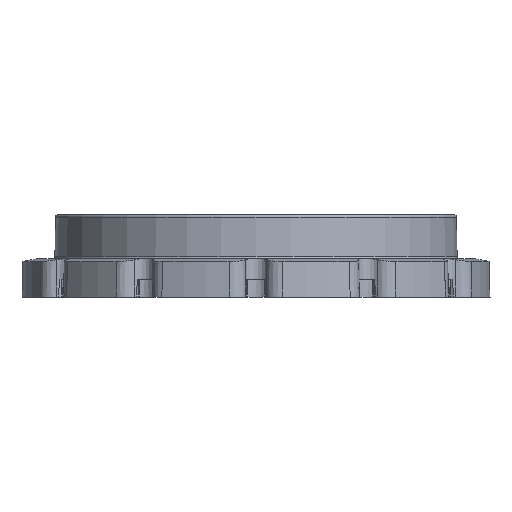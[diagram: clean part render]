
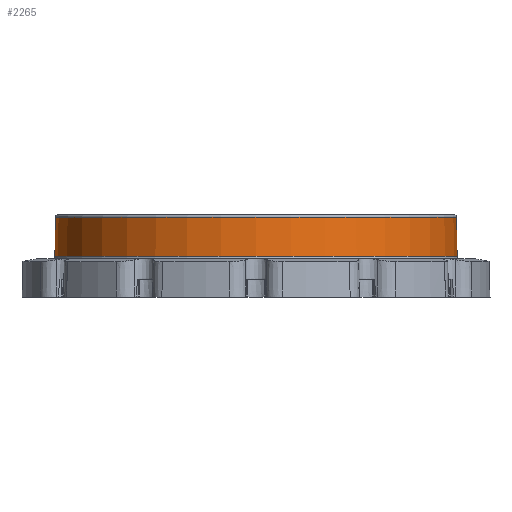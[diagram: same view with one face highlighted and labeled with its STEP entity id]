
A CAD part, front view. The second image highlights one B-rep face of the part: STEP entity #2265.
In plain terms, the highlighted conical face has half-angle 1 degrees and reference radius 23.5 mm.
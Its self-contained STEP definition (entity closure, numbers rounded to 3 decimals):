
#237 = CARTESIAN_POINT ( 'NONE',  ( -23.415, 0., 9.354 ) ) ;
#240 = CARTESIAN_POINT ( 'NONE',  ( 23.415, 0., 9.354 ) ) ;
#587 = CONICAL_SURFACE ( 'NONE', #762, 23.5, 0.017 ) ;
#665 = CIRCLE ( 'NONE', #714, 23.496 ) ;
#714 = AXIS2_PLACEMENT_3D ( 'NONE', #7366, #7367, #7368 ) ;
#762 = AXIS2_PLACEMENT_3D ( 'NONE', #7911, #7910, #7909 ) ;
#1668 = EDGE_LOOP ( 'NONE', ( #3064, #3066, #3065, #3067 ) ) ;
#2070 = VERTEX_POINT ( 'NONE', #240 ) ;
#2073 = VERTEX_POINT ( 'NONE', #237 ) ;
#2265 = ADVANCED_FACE ( 'NONE', ( #6691 ), #587, .T. ) ;
#2295 = EDGE_CURVE ( 'NONE', #15907, #15908, #665, .T. ) ;
#2520 = EDGE_CURVE ( 'NONE', #2073, #15907, #6909, .T. ) ;
#2521 = EDGE_CURVE ( 'NONE', #2070, #2073, #16345, .T. ) ;
#2522 = EDGE_CURVE ( 'NONE', #2070, #15908, #6910, .T. ) ;
#3064 = ORIENTED_EDGE ( 'NONE', *, *, #2521, .T. ) ;
#3065 = ORIENTED_EDGE ( 'NONE', *, *, #2295, .T. ) ;
#3066 = ORIENTED_EDGE ( 'NONE', *, *, #2520, .T. ) ;
#3067 = ORIENTED_EDGE ( 'NONE', *, *, #2522, .F. ) ;
#6691 = FACE_OUTER_BOUND ( 'NONE', #1668, .T. ) ;
#6909 = LINE ( 'NONE', #8136, #16302 ) ;
#6910 = LINE ( 'NONE', #8141, #16483 ) ;
#7366 = CARTESIAN_POINT ( 'NONE',  ( 0., 0., 4.746 ) ) ;
#7367 = DIRECTION ( 'NONE',  ( 0., 0., 1. ) ) ;
#7368 = DIRECTION ( 'NONE',  ( 1., 0., 0. ) ) ;
#7909 = DIRECTION ( 'NONE',  ( 1., 0., 0. ) ) ;
#7910 = DIRECTION ( 'NONE',  ( 0., 0., -1. ) ) ;
#7911 = CARTESIAN_POINT ( 'NONE',  ( 0., 0., 4.5 ) ) ;
#8136 = CARTESIAN_POINT ( 'NONE',  ( -23.5, 0., 4.5 ) ) ;
#8137 = DIRECTION ( 'NONE',  ( -0.017, 0., -1. ) ) ;
#8138 = CARTESIAN_POINT ( 'NONE',  ( 0., 0., 9.354 ) ) ;
#8139 = DIRECTION ( 'NONE',  ( 0., 0., -1. ) ) ;
#8140 = DIRECTION ( 'NONE',  ( -1., 0., 0. ) ) ;
#8141 = CARTESIAN_POINT ( 'NONE',  ( 23.5, 0., 4.5 ) ) ;
#8142 = DIRECTION ( 'NONE',  ( 0.017, 0., -1. ) ) ;
#15192 = CARTESIAN_POINT ( 'NONE',  ( -23.496, 0., 4.746 ) ) ;
#15193 = CARTESIAN_POINT ( 'NONE',  ( 23.496, 0., 4.746 ) ) ;
#15907 = VERTEX_POINT ( 'NONE', #15192 ) ;
#15908 = VERTEX_POINT ( 'NONE', #15193 ) ;
#16302 = VECTOR ( 'NONE', #8137, 1000. ) ;
#16318 = AXIS2_PLACEMENT_3D ( 'NONE', #8138, #8139, #8140 ) ;
#16345 = CIRCLE ( 'NONE', #16318, 23.415 ) ;
#16483 = VECTOR ( 'NONE', #8142, 1000. ) ;
